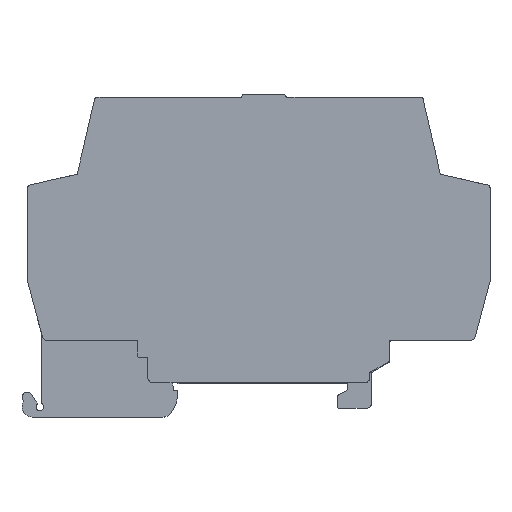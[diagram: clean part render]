
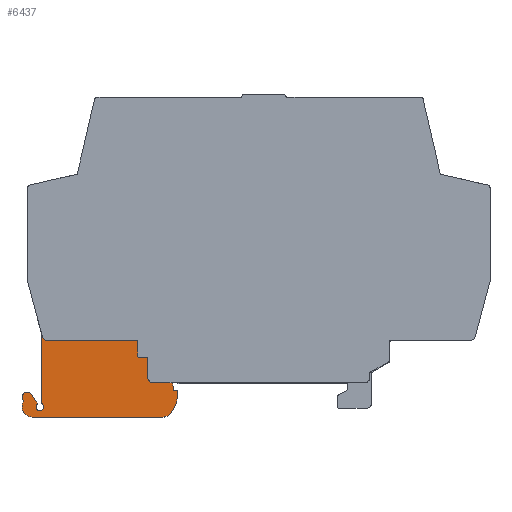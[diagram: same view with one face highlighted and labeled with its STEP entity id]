
A CAD part, top view. The second image highlights one B-rep face of the part: STEP entity #6437.
In plain terms, the highlighted planar face has unit normal (0, 0, 1).
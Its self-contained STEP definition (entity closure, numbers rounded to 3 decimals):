
#464=FACE_OUTER_BOUND('',#830,.T.);
#830=EDGE_LOOP('',(#5802,#5803,#5804,#5805,#5806,#5807,#5808,#5809,#5810,
#5811,#5812,#5813,#5814,#5815,#5816,#5817,#5818,#5819,#5820,#5821,#5822,
#5823,#5824,#5825,#5826,#5827,#5828));
#883=CIRCLE('',#6538,1.);
#884=CIRCLE('',#6541,0.2);
#885=CIRCLE('',#6544,0.2);
#886=CIRCLE('',#6547,0.2);
#887=CIRCLE('',#6550,1.);
#907=CIRCLE('',#6584,0.2);
#909=CIRCLE('',#6587,1.);
#911=CIRCLE('',#6591,0.2);
#913=CIRCLE('',#6594,0.75);
#942=CIRCLE('',#6671,0.2);
#944=CIRCLE('',#6675,0.2);
#946=CIRCLE('',#6679,6.7);
#948=CIRCLE('',#6682,2.);
#950=CIRCLE('',#6686,2.);
#1135=LINE('',#9095,#1875);
#1138=LINE('',#9103,#1878);
#1141=LINE('',#9111,#1881);
#1144=LINE('',#9119,#1884);
#1147=LINE('',#9127,#1887);
#1181=LINE('',#9222,#1921);
#1195=LINE('',#9269,#1935);
#1200=LINE('',#9285,#1940);
#1326=LINE('',#9582,#2066);
#1329=LINE('',#9588,#2069);
#1333=LINE('',#9600,#2073);
#1337=LINE('',#9612,#2077);
#1342=LINE('',#9630,#2082);
#1875=VECTOR('',#7260,1000.);
#1878=VECTOR('',#7269,1000.);
#1881=VECTOR('',#7278,1000.);
#1884=VECTOR('',#7287,1000.);
#1887=VECTOR('',#7296,1000.);
#1921=VECTOR('',#7374,1000.);
#1935=VECTOR('',#7418,1000.);
#1940=VECTOR('',#7437,1000.);
#2066=VECTOR('',#7707,1000.);
#2069=VECTOR('',#7712,1000.);
#2073=VECTOR('',#7724,1000.);
#2077=VECTOR('',#7736,1000.);
#2082=VECTOR('',#7755,1000.);
#2635=VERTEX_POINT('',#9088);
#2636=VERTEX_POINT('',#9089);
#2637=VERTEX_POINT('',#9094);
#2638=VERTEX_POINT('',#9098);
#2639=VERTEX_POINT('',#9102);
#2640=VERTEX_POINT('',#9106);
#2641=VERTEX_POINT('',#9110);
#2642=VERTEX_POINT('',#9114);
#2643=VERTEX_POINT('',#9118);
#2644=VERTEX_POINT('',#9122);
#2645=VERTEX_POINT('',#9126);
#2648=VERTEX_POINT('',#9136);
#2697=VERTEX_POINT('',#9254);
#2698=VERTEX_POINT('',#9256);
#2700=VERTEX_POINT('',#9262);
#2702=VERTEX_POINT('',#9268);
#2704=VERTEX_POINT('',#9274);
#2706=VERTEX_POINT('',#9280);
#2805=VERTEX_POINT('',#9581);
#2807=VERTEX_POINT('',#9587);
#2809=VERTEX_POINT('',#9593);
#2811=VERTEX_POINT('',#9599);
#2813=VERTEX_POINT('',#9605);
#2815=VERTEX_POINT('',#9611);
#2817=VERTEX_POINT('',#9617);
#2819=VERTEX_POINT('',#9623);
#2821=VERTEX_POINT('',#9629);
#3272=EDGE_CURVE('',#2635,#2636,#883,.T.);
#3275=EDGE_CURVE('',#2637,#2635,#1135,.T.);
#3277=EDGE_CURVE('',#2637,#2638,#884,.T.);
#3279=EDGE_CURVE('',#2639,#2638,#1138,.T.);
#3281=EDGE_CURVE('',#2640,#2639,#885,.T.);
#3283=EDGE_CURVE('',#2641,#2640,#1141,.T.);
#3285=EDGE_CURVE('',#2641,#2642,#886,.T.);
#3287=EDGE_CURVE('',#2643,#2642,#1144,.T.);
#3289=EDGE_CURVE('',#2644,#2643,#887,.T.);
#3291=EDGE_CURVE('',#2645,#2644,#1147,.T.);
#3339=EDGE_CURVE('',#2636,#2648,#1181,.T.);
#3355=EDGE_CURVE('',#2697,#2698,#907,.T.);
#3358=EDGE_CURVE('',#2700,#2698,#909,.T.);
#3361=EDGE_CURVE('',#2702,#2700,#1195,.T.);
#3364=EDGE_CURVE('',#2704,#2702,#911,.T.);
#3367=EDGE_CURVE('',#2704,#2706,#913,.T.);
#3370=EDGE_CURVE('',#2645,#2706,#1200,.T.);
#3523=EDGE_CURVE('',#2805,#2648,#1326,.T.);
#3526=EDGE_CURVE('',#2807,#2805,#1329,.T.);
#3529=EDGE_CURVE('',#2807,#2809,#942,.T.);
#3532=EDGE_CURVE('',#2811,#2809,#1333,.T.);
#3535=EDGE_CURVE('',#2813,#2811,#944,.T.);
#3538=EDGE_CURVE('',#2815,#2813,#1337,.T.);
#3541=EDGE_CURVE('',#2817,#2815,#946,.T.);
#3544=EDGE_CURVE('',#2819,#2817,#948,.T.);
#3547=EDGE_CURVE('',#2821,#2819,#1342,.T.);
#3550=EDGE_CURVE('',#2697,#2821,#950,.T.);
#5802=ORIENTED_EDGE('',*,*,#3339,.F.);
#5803=ORIENTED_EDGE('',*,*,#3272,.F.);
#5804=ORIENTED_EDGE('',*,*,#3275,.F.);
#5805=ORIENTED_EDGE('',*,*,#3277,.T.);
#5806=ORIENTED_EDGE('',*,*,#3279,.F.);
#5807=ORIENTED_EDGE('',*,*,#3281,.F.);
#5808=ORIENTED_EDGE('',*,*,#3283,.F.);
#5809=ORIENTED_EDGE('',*,*,#3285,.T.);
#5810=ORIENTED_EDGE('',*,*,#3287,.F.);
#5811=ORIENTED_EDGE('',*,*,#3289,.F.);
#5812=ORIENTED_EDGE('',*,*,#3291,.F.);
#5813=ORIENTED_EDGE('',*,*,#3370,.T.);
#5814=ORIENTED_EDGE('',*,*,#3367,.F.);
#5815=ORIENTED_EDGE('',*,*,#3364,.T.);
#5816=ORIENTED_EDGE('',*,*,#3361,.T.);
#5817=ORIENTED_EDGE('',*,*,#3358,.T.);
#5818=ORIENTED_EDGE('',*,*,#3355,.F.);
#5819=ORIENTED_EDGE('',*,*,#3550,.T.);
#5820=ORIENTED_EDGE('',*,*,#3547,.T.);
#5821=ORIENTED_EDGE('',*,*,#3544,.T.);
#5822=ORIENTED_EDGE('',*,*,#3541,.T.);
#5823=ORIENTED_EDGE('',*,*,#3538,.T.);
#5824=ORIENTED_EDGE('',*,*,#3535,.T.);
#5825=ORIENTED_EDGE('',*,*,#3532,.T.);
#5826=ORIENTED_EDGE('',*,*,#3529,.F.);
#5827=ORIENTED_EDGE('',*,*,#3526,.T.);
#5828=ORIENTED_EDGE('',*,*,#3523,.T.);
#6101=PLANE('',#6970);
#6437=ADVANCED_FACE('',(#464),#6101,.T.);
#6538=AXIS2_PLACEMENT_3D('',#9090,#7254,#7255);
#6541=AXIS2_PLACEMENT_3D('',#9099,#7264,#7265);
#6544=AXIS2_PLACEMENT_3D('',#9107,#7273,#7274);
#6547=AXIS2_PLACEMENT_3D('',#9115,#7282,#7283);
#6550=AXIS2_PLACEMENT_3D('',#9123,#7291,#7292);
#6584=AXIS2_PLACEMENT_3D('',#9257,#7405,#7406);
#6587=AXIS2_PLACEMENT_3D('',#9263,#7412,#7413);
#6591=AXIS2_PLACEMENT_3D('',#9275,#7424,#7425);
#6594=AXIS2_PLACEMENT_3D('',#9281,#7431,#7432);
#6671=AXIS2_PLACEMENT_3D('',#9594,#7718,#7719);
#6675=AXIS2_PLACEMENT_3D('',#9606,#7730,#7731);
#6679=AXIS2_PLACEMENT_3D('',#9618,#7742,#7743);
#6682=AXIS2_PLACEMENT_3D('',#9624,#7749,#7750);
#6686=AXIS2_PLACEMENT_3D('',#9634,#7761,#7762);
#6970=AXIS2_PLACEMENT_3D('',#10601,#8735,#8736);
#7254=DIRECTION('center_axis',(0.,0.,1.));
#7255=DIRECTION('ref_axis',(1.,0.,0.));
#7260=DIRECTION('',(0.,-1.,0.));
#7264=DIRECTION('center_axis',(0.,0.,1.));
#7265=DIRECTION('ref_axis',(1.,0.,0.));
#7269=DIRECTION('',(1.,0.,0.));
#7273=DIRECTION('center_axis',(0.,0.,1.));
#7274=DIRECTION('ref_axis',(1.,0.,0.));
#7278=DIRECTION('',(0.,-1.,0.));
#7282=DIRECTION('center_axis',(0.,0.,1.));
#7283=DIRECTION('ref_axis',(1.,0.,0.));
#7287=DIRECTION('',(1.,0.,0.));
#7291=DIRECTION('center_axis',(0.,0.,1.));
#7292=DIRECTION('ref_axis',(1.,0.,0.));
#7296=DIRECTION('',(0.259,-0.966,0.));
#7374=DIRECTION('',(1.,0.,0.));
#7405=DIRECTION('center_axis',(0.,0.,1.));
#7406=DIRECTION('ref_axis',(1.,0.,0.));
#7412=DIRECTION('center_axis',(0.,0.,1.));
#7413=DIRECTION('ref_axis',(1.,0.,0.));
#7418=DIRECTION('',(-0.555,0.832,0.));
#7424=DIRECTION('center_axis',(0.,0.,1.));
#7425=DIRECTION('ref_axis',(1.,0.,0.));
#7431=DIRECTION('center_axis',(0.,0.,1.));
#7432=DIRECTION('ref_axis',(1.,0.,0.));
#7437=DIRECTION('',(0.,-1.,0.));
#7707=DIRECTION('',(0.259,0.966,0.));
#7712=DIRECTION('',(-0.182,0.983,0.));
#7718=DIRECTION('center_axis',(0.,0.,1.));
#7719=DIRECTION('ref_axis',(1.,0.,0.));
#7724=DIRECTION('',(-1.,0.,0.));
#7730=DIRECTION('center_axis',(0.,0.,1.));
#7731=DIRECTION('ref_axis',(1.,0.,0.));
#7736=DIRECTION('',(0.,1.,0.));
#7742=DIRECTION('center_axis',(0.,0.,1.));
#7743=DIRECTION('ref_axis',(1.,0.,0.));
#7749=DIRECTION('center_axis',(0.,0.,1.));
#7750=DIRECTION('ref_axis',(1.,0.,0.));
#7755=DIRECTION('',(1.,0.,0.));
#7761=DIRECTION('center_axis',(0.,0.,1.));
#7762=DIRECTION('ref_axis',(1.,0.,0.));
#8735=DIRECTION('center_axis',(0.,0.,1.));
#8736=DIRECTION('ref_axis',(1.,0.,0.));
#9088=CARTESIAN_POINT('',(-21.7,1.2,6.));
#9089=CARTESIAN_POINT('',(-20.7,0.2,6.));
#9090=CARTESIAN_POINT('Origin',(-20.7,1.2,6.));
#9094=CARTESIAN_POINT('',(-21.7,5.,6.));
#9095=CARTESIAN_POINT('',(-21.7,5.,6.));
#9098=CARTESIAN_POINT('',(-21.9,5.2,6.));
#9099=CARTESIAN_POINT('Origin',(-21.9,5.,6.));
#9102=CARTESIAN_POINT('',(-23.5,5.2,6.));
#9103=CARTESIAN_POINT('',(-23.5,5.2,6.));
#9106=CARTESIAN_POINT('',(-23.7,5.4,6.));
#9107=CARTESIAN_POINT('Origin',(-23.5,5.4,6.));
#9110=CARTESIAN_POINT('',(-23.7,8.3,6.));
#9111=CARTESIAN_POINT('',(-23.7,8.3,6.));
#9114=CARTESIAN_POINT('',(-23.9,8.5,6.));
#9115=CARTESIAN_POINT('Origin',(-23.9,8.3,6.));
#9118=CARTESIAN_POINT('',(-41.351,8.5,6.));
#9119=CARTESIAN_POINT('',(-41.351,8.5,6.));
#9122=CARTESIAN_POINT('',(-42.317,9.241,6.));
#9123=CARTESIAN_POINT('Origin',(-41.351,9.5,6.));
#9126=CARTESIAN_POINT('',(-42.5,9.923,6.));
#9127=CARTESIAN_POINT('',(-45.2,20.,6.));
#9136=CARTESIAN_POINT('',(-16.782,0.2,6.));
#9222=CARTESIAN_POINT('',(-20.7,0.2,6.));
#9254=CARTESIAN_POINT('',(-46.028,-3.493,6.));
#9256=CARTESIAN_POINT('',(-46.051,-3.261,6.));
#9257=CARTESIAN_POINT('Origin',(-46.201,-3.393,6.));
#9262=CARTESIAN_POINT('',(-44.468,-2.045,6.));
#9263=CARTESIAN_POINT('Origin',(-45.3,-2.6,6.));
#9268=CARTESIAN_POINT('',(-43.334,-3.747,6.));
#9269=CARTESIAN_POINT('',(-43.334,-3.747,6.));
#9274=CARTESIAN_POINT('',(-43.353,-3.993,6.));
#9275=CARTESIAN_POINT('Origin',(-43.5,-3.858,6.));
#9280=CARTESIAN_POINT('',(-42.5,-3.813,6.));
#9281=CARTESIAN_POINT('Origin',(-42.8,-4.5,6.));
#9285=CARTESIAN_POINT('',(-42.5,9.923,6.));
#9581=CARTESIAN_POINT('',(-16.835,0.,6.));
#9582=CARTESIAN_POINT('',(-16.835,0.,6.));
#9587=CARTESIAN_POINT('',(-16.625,-1.136,6.));
#9588=CARTESIAN_POINT('',(-16.625,-1.136,6.));
#9593=CARTESIAN_POINT('',(-16.428,-1.3,6.));
#9594=CARTESIAN_POINT('Origin',(-16.428,-1.1,6.));
#9599=CARTESIAN_POINT('',(-16.,-1.3,6.));
#9600=CARTESIAN_POINT('',(-16.,-1.3,6.));
#9605=CARTESIAN_POINT('',(-15.8,-1.5,6.));
#9606=CARTESIAN_POINT('Origin',(-16.,-1.5,6.));
#9611=CARTESIAN_POINT('',(-15.8,-1.6,6.));
#9612=CARTESIAN_POINT('',(-15.8,-1.6,6.));
#9617=CARTESIAN_POINT('',(-17.227,-5.734,6.));
#9618=CARTESIAN_POINT('Origin',(-22.5,-1.6,6.));
#9623=CARTESIAN_POINT('',(-18.801,-6.5,6.));
#9624=CARTESIAN_POINT('Origin',(-18.801,-4.5,6.));
#9629=CARTESIAN_POINT('',(-44.3,-6.5,6.));
#9630=CARTESIAN_POINT('',(-44.3,-6.5,6.));
#9634=CARTESIAN_POINT('Origin',(-44.3,-4.5,6.));
#10601=CARTESIAN_POINT('Origin',(-46.201,-3.393,6.));
